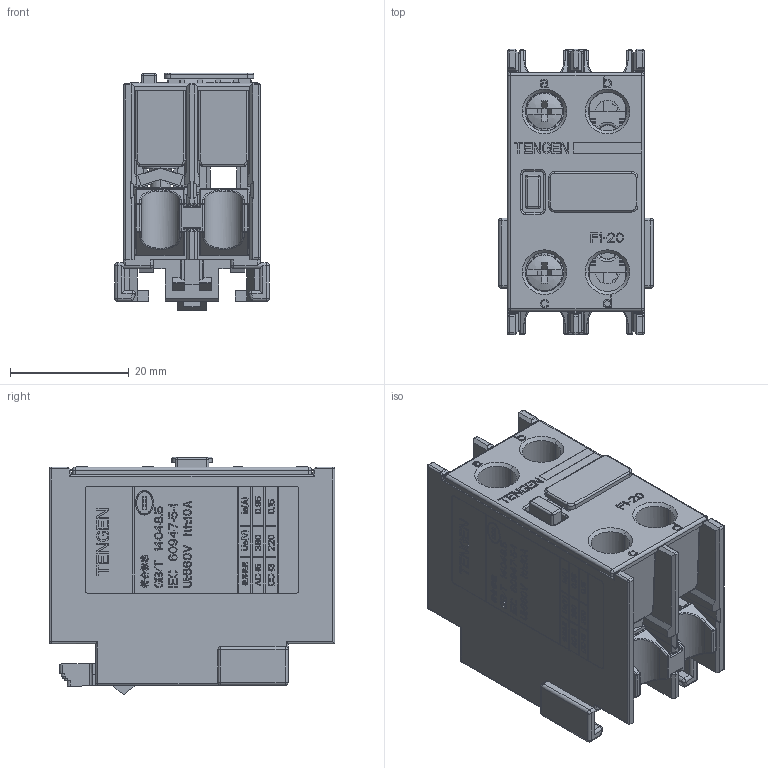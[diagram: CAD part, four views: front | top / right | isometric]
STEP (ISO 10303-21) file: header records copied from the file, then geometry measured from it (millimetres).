
FILE_DESCRIPTION (( 'STEP AP214' ), '1' );
FILE_NAME ('F1-2.STEP', '2026-01-30T09:50:13', ( '' ), ( '' ), 'SwSTEP 2.0', 'SolidWorks 2024', '' );
FILE_SCHEMA (( 'AUTOMOTIVE_DESIGN' ));
Length unit declared in the file: millimetre
Products named in the file (24): 8TZD_557_1147_3.stp; F1-2; 8TZD_553_1082_3.stp; 5TZD_550_1171_ASM_3.stp; 8TZD_282_1254_AF0_1.stp; 5TZD_553_1110_AF0_ASM_1.stp; 8TZD_550_3009_AF4_1.stp; 8TZD_282_1252_AF2_1.stp; 5TZD_553_1110_AF1_ASM_1.stp; 8TZD_550_3009_AF2_1.stp; 8TZD_282_1252_AF3_1.stp; 8TZD_885_1033_1.stp; 8TZD_005_1057_1.stp; 8TZD_550_3009_AF5_1.stp; Q_TZJ0303_3-M3_5X9_5_3.stp; 8TZD_315_1586_1.stp; F1-2.stp; 8TZD_104_1101_2_1.stp; 8TZD_865_1344_1.stp; 8TZD_550_3010_AF0_3.stp; 5TZD_104_1124_1_AF1_ASM_1.stp; 8TZD_550_3009_AF3_1.stp; 8TZD_315_1778_1.stp; 8TZD_810_1027_1.stp
Assembly tree (29 placements, depth 5):
  F1-2
    F1-2.stp
      5TZD_104_1124_1_AF1_ASM_1.stp
        5TZD_553_1110_AF1_ASM_1.stp
          8TZD_553_1082_3.stp
          8TZD_550_3009_AF5_1.stp
          8TZD_550_3009_AF4_1.stp
        5TZD_553_1110_AF0_ASM_1.stp
          8TZD_553_1082_3.stp
          8TZD_550_3009_AF3_1.stp
          8TZD_550_3009_AF2_1.stp
        8TZD_104_1101_2_1.stp
        8TZD_282_1252_AF3_1.stp
        8TZD_282_1252_AF2_1.stp
      5TZD_550_1171_ASM_3.stp  x4
        8TZD_557_1147_3.stp
        8TZD_550_3010_AF0_3.stp
      8TZD_005_1057_1.stp
      Q_TZJ0303_3-M3_5X9_5_3.stp  x2
      8TZD_315_1778_1.stp
      8TZD_315_1586_1.stp  x2
      8TZD_885_1033_1.stp
      8TZD_282_1254_AF0_1.stp
      8TZD_865_1344_1.stp
      8TZD_810_1027_1.stp
Bounding box: 26 x 48 x 40.02 mm (x, y, z)
Volume: 17024.9 mm3; surface area: 27100.1 mm2
Topology: 21 solids, 33 shells, 5763 faces, 15916 edges, 10358 vertices
Faces by surface type: plane 4916, cylinder 584, sphere 141, torus 56, bspline 42, cone 24
Entity records: 168504 total; most frequent: CARTESIAN_POINT 39265, ORIENTED_EDGE 27934, DIRECTION 24400, EDGE_CURVE 13971, LINE 12658, VECTOR 12658, VERTEX_POINT 9138, AXIS2_PLACEMENT_3D 5871
